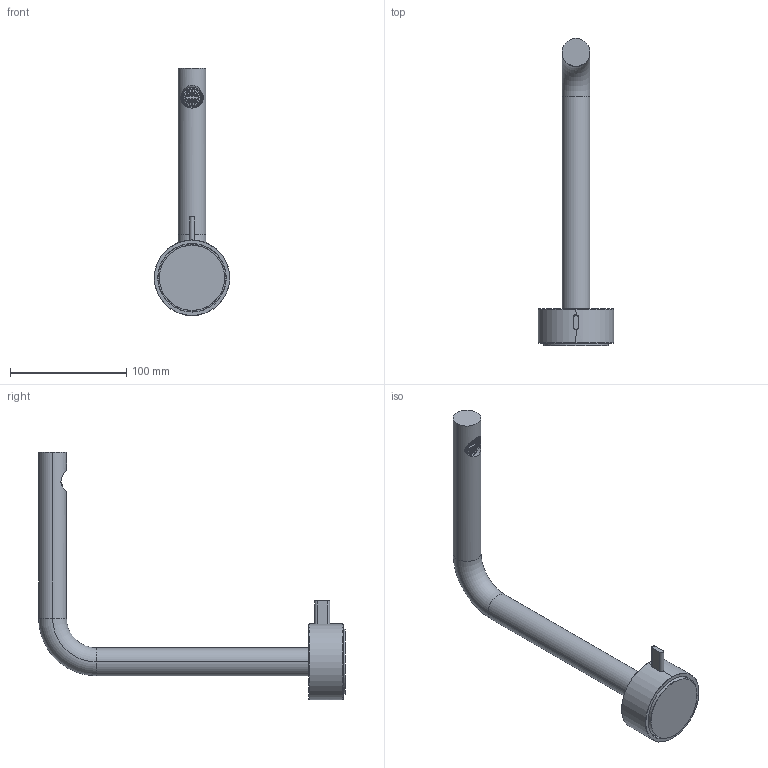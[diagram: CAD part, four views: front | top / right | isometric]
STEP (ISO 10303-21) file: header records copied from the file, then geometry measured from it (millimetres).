
FILE_DESCRIPTION((''),'2;1');
FILE_NAME('27000A006WF00000_SW0002','2023-01-12T11:12:58',('matteo.follador'),(''),'CREO PARAMETRIC BY PTC INC, 2020281','CREO PARAMETRIC BY PTC INC, 2020281','');
FILE_SCHEMA(('AUTOMOTIVE_DESIGN { 1 0 10303 214 1 1 1 1 }'));
Length unit declared in the file: millimetre
Products named in the file (1): 27000A006WF00000_SW0002
Bounding box: 65 x 263.7 x 212.5 mm (x, y, z)
Volume: 195487.3 mm3; surface area: 65466.5 mm2
Topology: 2 solids, 2 shells, 348 faces, 918 edges, 601 vertices
Faces by surface type: plane 256, cylinder 58, torus 16, cone 14, sphere 4
Entity records: 13260 total; most frequent: CARTESIAN_POINT 3541, DIRECTION 1939, ORIENTED_EDGE 1836, EDGE_CURVE 918, AXIS2_PLACEMENT_3D 712, VERTEX_POINT 601, VECTOR 512, LINE 512
